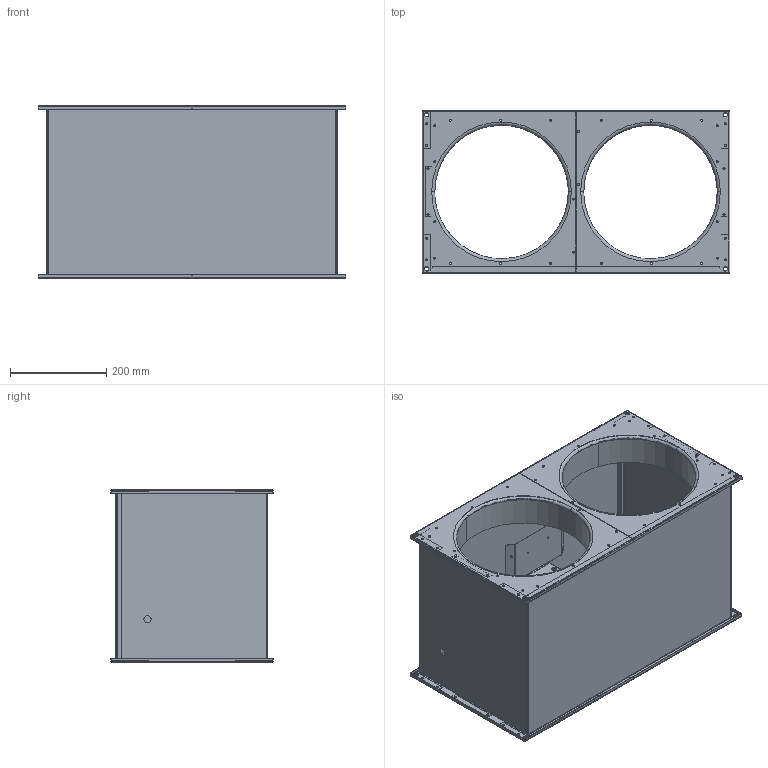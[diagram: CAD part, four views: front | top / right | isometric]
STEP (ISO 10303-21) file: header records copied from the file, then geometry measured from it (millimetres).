
FILE_DESCRIPTION (( 'STEP AP203' ), '1' );
FILE_NAME ('127740-00_ELKI6030E211.STEP', '2013-09-25T07:15:11', ( '' ), ( '' ), 'SwSTEP 2.0', 'SolidWorks 2012', '' );
FILE_SCHEMA (( 'CONFIG_CONTROL_DESIGN' ));
Length unit declared in the file: millimetre
Products named in the file (1): 127740-00_ELKI6030E211
Bounding box: 639.5 x 338 x 358 mm (x, y, z)
Surface area: 2257355.4 mm2 (no closed solid volume)
Topology: 0 solids, 88 shells, 593 faces, 2072 edges, 1516 vertices
Faces by surface type: cylinder 396, plane 183, torus 8, bspline 6
Entity records: 23879 total; most frequent: CARTESIAN_POINT 5180, DIRECTION 4205, ORIENTED_EDGE 3128, EDGE_CURVE 2072, AXIS2_PLACEMENT_3D 1601, VERTEX_POINT 1516, CIRCLE 1013, LINE 1003
